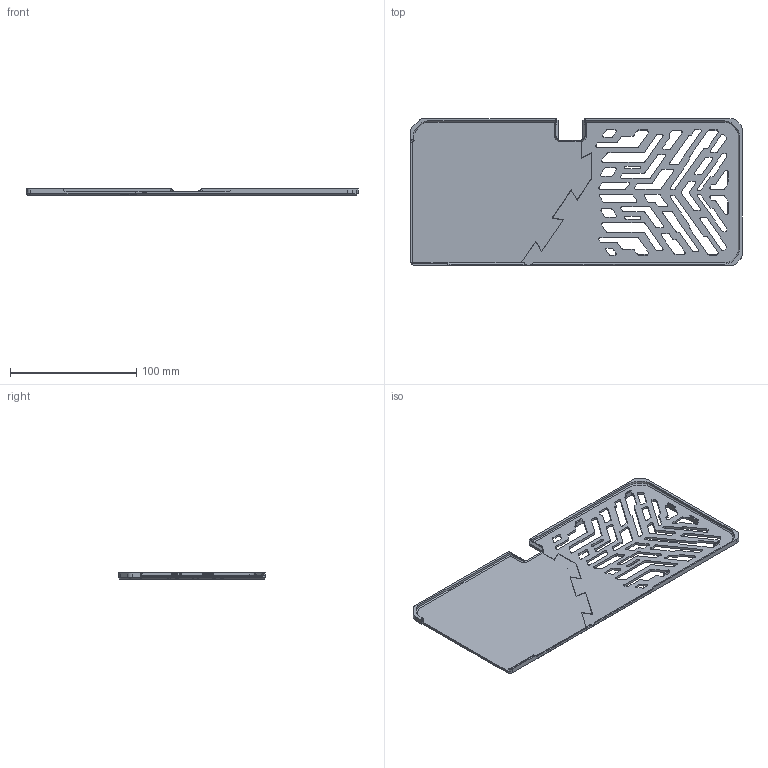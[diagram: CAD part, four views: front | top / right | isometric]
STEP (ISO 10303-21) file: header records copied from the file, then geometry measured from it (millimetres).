
FILE_DESCRIPTION((''),'2;1');
FILE_NAME('PC013-1B0_BACKPLATE_2','2025-08-07T16:00:53',('Kate'),(''),'CREO PARAMETRIC BY PTC INC, 2021304','CREO PARAMETRIC BY PTC INC, 2021304','');
FILE_SCHEMA(('AUTOMOTIVE_DESIGN { 1 0 10303 214 1 1 1 1 }'));
Length unit declared in the file: millimetre
Products named in the file (1): PC013-1B0_BACKPLATE_2
Bounding box: 263.1 x 116.25 x 4.8 mm (x, y, z)
Volume: 48820.9 mm3; surface area: 61489.4 mm2
Topology: 2 solids, 2 shells, 1403 faces, 4064 edges, 2694 vertices
Faces by surface type: plane 894, cylinder 456, cone 25, extrusion 20, bspline 4, revolution 4
Entity records: 47368 total; most frequent: CARTESIAN_POINT 8912, ORIENTED_EDGE 8102, DIRECTION 7663, EDGE_CURVE 4051, VECTOR 3057, LINE 3037, VERTEX_POINT 2674, AXIS2_PLACEMENT_3D 2301
